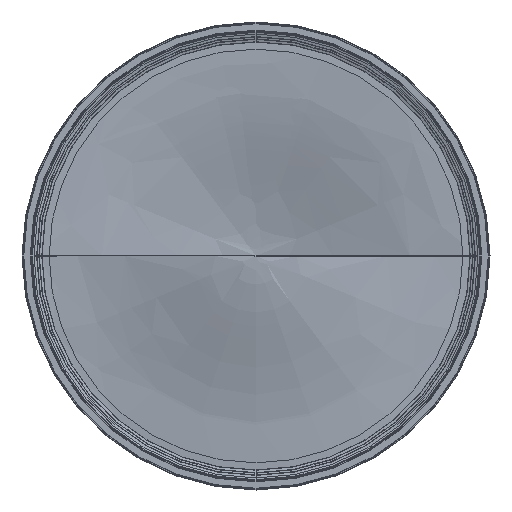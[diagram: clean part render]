
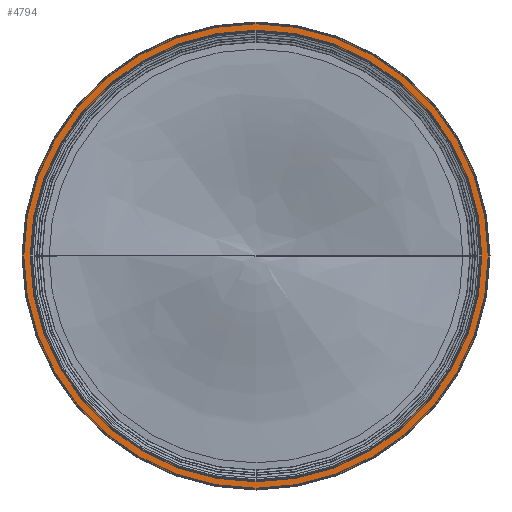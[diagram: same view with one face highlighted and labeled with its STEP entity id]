
A CAD part, front view. The second image highlights one B-rep face of the part: STEP entity #4794.
In plain terms, the highlighted planar face has unit normal (0, -1, 0).
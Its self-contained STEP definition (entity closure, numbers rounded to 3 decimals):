
#119 = DIRECTION ( 'NONE',  ( 0., -1., 0. ) ) ;
#238 = CIRCLE ( 'NONE', #7924, 232.5 ) ;
#258 = AXIS2_PLACEMENT_3D ( 'NONE', #11321, #5436, #1534 ) ;
#998 = PLANE ( 'NONE',  #9346 ) ;
#1123 = DIRECTION ( 'NONE',  ( 0., 0., 1. ) ) ;
#1146 = CIRCLE ( 'NONE', #4951, 232.5 ) ;
#1171 = DIRECTION ( 'NONE',  ( 0., 1., 0. ) ) ;
#1250 = DIRECTION ( 'NONE',  ( 0., 1., 0. ) ) ;
#1534 = DIRECTION ( 'NONE',  ( 0., 0., 1. ) ) ;
#1853 = VERTEX_POINT ( 'NONE', #7533 ) ;
#3119 = DIRECTION ( 'NONE',  ( 0., 0., -1. ) ) ;
#3173 = EDGE_CURVE ( 'NONE', #5287, #7592, #1146, .T. ) ;
#3656 = ORIENTED_EDGE ( 'NONE', *, *, #6104, .T. ) ;
#4081 = CARTESIAN_POINT ( 'NONE',  ( 0., -7.2, 0. ) ) ;
#4794 = ADVANCED_FACE ( 'NONE', ( #9702, #5974 ), #998, .T. ) ;
#4951 = AXIS2_PLACEMENT_3D ( 'NONE', #8864, #1171, #7967 ) ;
#5097 = DIRECTION ( 'NONE',  ( 0., 0., 1. ) ) ;
#5287 = VERTEX_POINT ( 'NONE', #8248 ) ;
#5436 = DIRECTION ( 'NONE',  ( 0., 1., 0. ) ) ;
#5685 = CIRCLE ( 'NONE', #258, 223.642 ) ;
#5974 = FACE_OUTER_BOUND ( 'NONE', #8987, .T. ) ;
#6001 = DIRECTION ( 'NONE',  ( 0., 1., 0. ) ) ;
#6044 = AXIS2_PLACEMENT_3D ( 'NONE', #4081, #1250, #1123 ) ;
#6104 = EDGE_CURVE ( 'NONE', #1853, #9180, #6449, .T. ) ;
#6449 = CIRCLE ( 'NONE', #6044, 223.642 ) ;
#7447 = ORIENTED_EDGE ( 'NONE', *, *, #11316, .T. ) ;
#7533 = CARTESIAN_POINT ( 'NONE',  ( 0., -7.2, 223.642 ) ) ;
#7592 = VERTEX_POINT ( 'NONE', #8618 ) ;
#7775 = CARTESIAN_POINT ( 'NONE',  ( -232.5, -7.2, 0. ) ) ;
#7844 = CARTESIAN_POINT ( 'NONE',  ( 0., -7.2, -223.642 ) ) ;
#7924 = AXIS2_PLACEMENT_3D ( 'NONE', #11865, #6001, #5097 ) ;
#7967 = DIRECTION ( 'NONE',  ( 0., 0., 1. ) ) ;
#8027 = EDGE_LOOP ( 'NONE', ( #3656, #7447 ) ) ;
#8151 = ORIENTED_EDGE ( 'NONE', *, *, #10298, .F. ) ;
#8248 = CARTESIAN_POINT ( 'NONE',  ( 0., -7.2, 232.5 ) ) ;
#8618 = CARTESIAN_POINT ( 'NONE',  ( 0., -7.2, -232.5 ) ) ;
#8864 = CARTESIAN_POINT ( 'NONE',  ( 0., -7.2, 0. ) ) ;
#8987 = EDGE_LOOP ( 'NONE', ( #11603, #8151 ) ) ;
#9180 = VERTEX_POINT ( 'NONE', #7844 ) ;
#9346 = AXIS2_PLACEMENT_3D ( 'NONE', #7775, #119, #3119 ) ;
#9702 = FACE_BOUND ( 'NONE', #8027, .T. ) ;
#10298 = EDGE_CURVE ( 'NONE', #7592, #5287, #238, .T. ) ;
#11316 = EDGE_CURVE ( 'NONE', #9180, #1853, #5685, .T. ) ;
#11321 = CARTESIAN_POINT ( 'NONE',  ( 0., -7.2, 0. ) ) ;
#11603 = ORIENTED_EDGE ( 'NONE', *, *, #3173, .F. ) ;
#11865 = CARTESIAN_POINT ( 'NONE',  ( 0., -7.2, 0. ) ) ;
